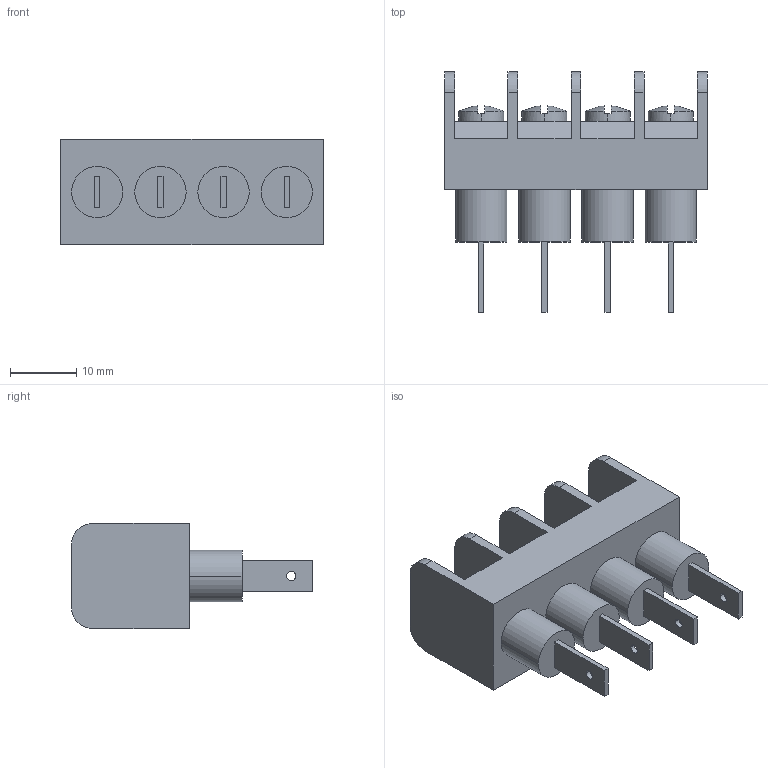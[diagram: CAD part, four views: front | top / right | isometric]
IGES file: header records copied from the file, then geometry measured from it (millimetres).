
Start section:  PTC IGES file: c-1776945-4-b-3d.igs
Global section: file name: c-1776945-4-b-3d.igs; native system: Pro/ENGINEER by Parametric Technology Corporation; preprocessor: 2009300; author: workeradm; organization: Unknown; units: millimetre
Bounding box: 39.65 x 36.32 x 15.88 mm (x, y, z)
Surface area: 5326.7 mm2 (no closed solid volume)
Topology: 0 solids, 0 shells, 152 faces, 804 edges, 804 vertices
Faces by surface type: bspline 110, revolution 42
